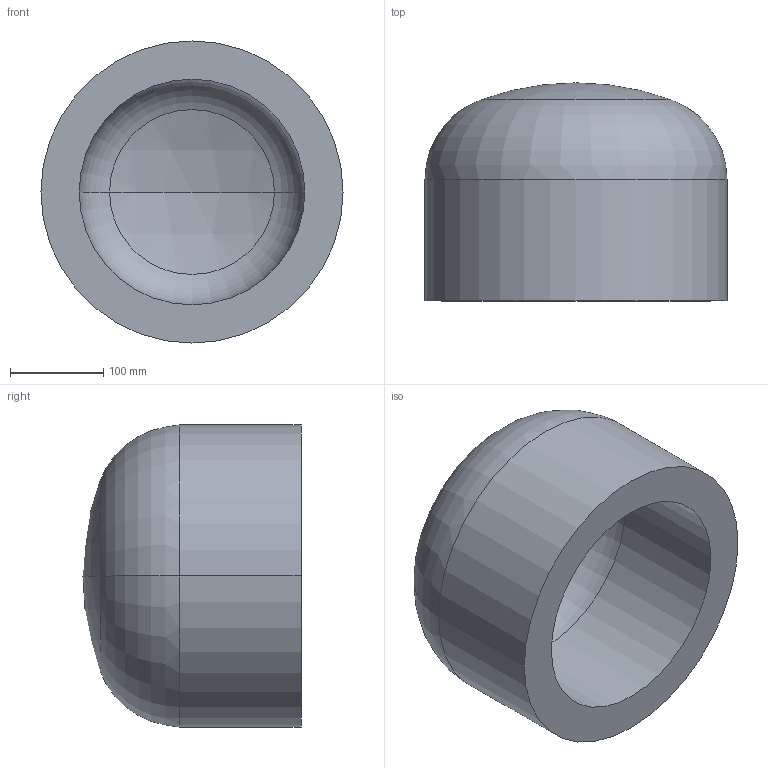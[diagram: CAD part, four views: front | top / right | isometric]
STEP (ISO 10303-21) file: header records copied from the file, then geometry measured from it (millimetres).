
FILE_DESCRIPTION (( 'STEP AP203' ), '1' );
FILE_NAME ('DIN 28013 Korbbogenform_-_Boden DIN 28013 - 323,9 x 130 - I - s=41.step', '2016-07-01T07:45:37', ( '' ), ( '' ), 'SwSTEP 2.0', 'SolidWorks 2013', '' );
FILE_SCHEMA (( 'CONFIG_CONTROL_DESIGN' ));
Length unit declared in the file: millimetre
Products named in the file (1): DIN 28013 Korbbogenform_-_Boden DIN 28013 - 323,9 x 130 - I - s=41
Bounding box: 323.9 x 233.74 x 323.9 mm (x, y, z)
Volume: 8751775 mm3; surface area: 466875.5 mm2
Topology: 1 solids, 1 shells, 13 faces, 24 edges, 14 vertices
Faces by surface type: torus 4, cylinder 4, sphere 4, plane 1
Entity records: 407 total; most frequent: DIRECTION 72, CARTESIAN_POINT 52, ORIENTED_EDGE 48, AXIS2_PLACEMENT_3D 34, EDGE_CURVE 24, CIRCLE 20, VERTEX_POINT 14, EDGE_LOOP 14
